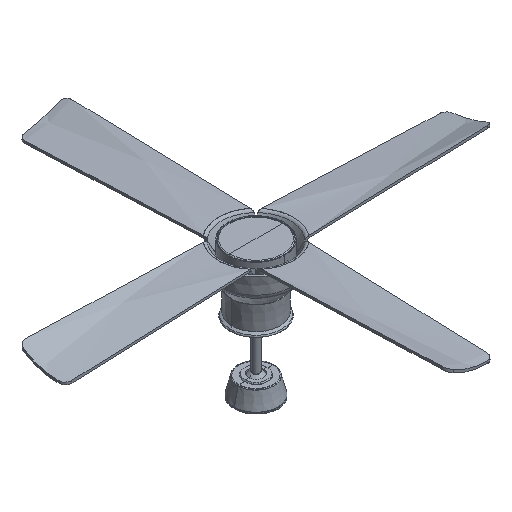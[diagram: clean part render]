
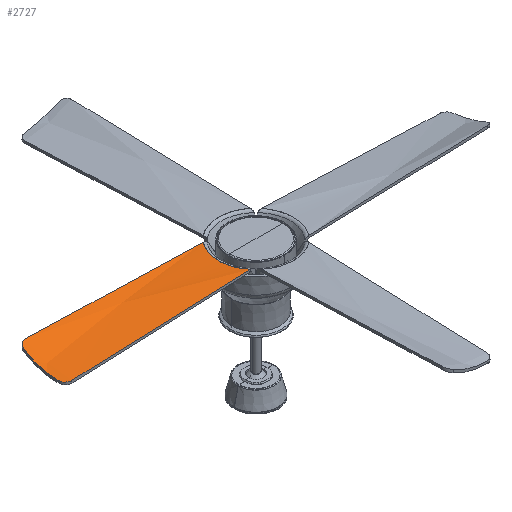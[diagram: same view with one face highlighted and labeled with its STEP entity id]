
A CAD part, isometric view. The second image highlights one B-rep face of the part: STEP entity #2727.
In plain terms, the highlighted free-form (B-spline) face has degree [3, 1] with [5, 2] control points.
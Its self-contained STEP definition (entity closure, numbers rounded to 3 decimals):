
#31=B_SPLINE_SURFACE_WITH_KNOTS('',3,1,((#5164,#5165),(#5166,#5167),(#5168,
#5169),(#5170,#5171),(#5172,#5173)),.UNSPECIFIED.,.F.,.F.,.F.,(4,1,4),(2,
2),(0.,0.533,1.),(0.,1.),.UNSPECIFIED.);
#619=FACE_OUTER_BOUND('',#805,.T.);
#805=EDGE_LOOP('',(#2165,#2166,#2167,#2168,#2169,#2170,#2171));
#998=B_SPLINE_CURVE_WITH_KNOTS('',3,(#4999,#5000,#5001,#5002,#5003,#5004,
#5005,#5006,#5007,#5008),.UNSPECIFIED.,.F.,.F.,(4,2,2,2,4),(0.,
18.649,37.706,55.774,75.41),
 .UNSPECIFIED.);
#999=B_SPLINE_CURVE_WITH_KNOTS('',3,(#5011,#5012,#5013,#5014,#5015,#5016,
#5017,#5018,#5019,#5020),.UNSPECIFIED.,.F.,.F.,(4,2,2,2,4),(0.,19.581,
37.601,56.664,75.204),.UNSPECIFIED.);
#1002=B_SPLINE_CURVE_WITH_KNOTS('',3,(#5041,#5042,#5043,#5044,#5045,#5046),
 .UNSPECIFIED.,.F.,.F.,(4,2,4),(0.,265.035,530.081),
 .UNSPECIFIED.);
#1004=B_SPLINE_CURVE_WITH_KNOTS('',3,(#5057,#5058,#5059,#5060,#5061,#5062,
#5063,#5064,#5065,#5066,#5067,#5068,#5069,#5070),.UNSPECIFIED.,.F.,.F.,
(4,2,2,2,2,2,4),(0.001,1.582,3.515,
8.034,14.875,22.063,29.674),
 .UNSPECIFIED.);
#1006=B_SPLINE_CURVE_WITH_KNOTS('',3,(#5089,#5090,#5091,#5092,#5093,#5094,
#5095,#5096),.UNSPECIFIED.,.F.,.F.,(4,2,2,4),(0.002,53.553,
80.23,106.95),.UNSPECIFIED.);
#1008=B_SPLINE_CURVE_WITH_KNOTS('',3,(#5109,#5110,#5111,#5112,#5113,#5114,
#5115,#5116,#5117,#5118,#5119,#5120,#5121,#5122,#5123,#5124),
 .UNSPECIFIED.,.F.,.F.,(4,2,2,2,2,2,2,4),(0.004,3.896,
8.001,14.854,22.733,26.42,28.161,
29.708),.UNSPECIFIED.);
#1011=B_SPLINE_CURVE_WITH_KNOTS('',3,(#5148,#5149,#5150,#5151,#5152,#5153),
 .UNSPECIFIED.,.F.,.F.,(4,2,4),(0.,268.116,513.433),
 .UNSPECIFIED.);
#1261=VERTEX_POINT('',#4980);
#1263=VERTEX_POINT('',#4993);
#1264=VERTEX_POINT('',#5010);
#1266=VERTEX_POINT('',#5038);
#1268=VERTEX_POINT('',#5054);
#1270=VERTEX_POINT('',#5086);
#1272=VERTEX_POINT('',#5106);
#1566=EDGE_CURVE('',#1261,#1263,#998,.T.);
#1567=EDGE_CURVE('',#1264,#1261,#999,.T.);
#1571=EDGE_CURVE('',#1263,#1266,#1002,.T.);
#1574=EDGE_CURVE('',#1266,#1268,#1004,.T.);
#1577=EDGE_CURVE('',#1268,#1270,#1006,.T.);
#1580=EDGE_CURVE('',#1270,#1272,#1008,.T.);
#1583=EDGE_CURVE('',#1272,#1264,#1011,.T.);
#2165=ORIENTED_EDGE('',*,*,#1580,.T.);
#2166=ORIENTED_EDGE('',*,*,#1583,.T.);
#2167=ORIENTED_EDGE('',*,*,#1567,.T.);
#2168=ORIENTED_EDGE('',*,*,#1566,.T.);
#2169=ORIENTED_EDGE('',*,*,#1571,.T.);
#2170=ORIENTED_EDGE('',*,*,#1574,.T.);
#2171=ORIENTED_EDGE('',*,*,#1577,.T.);
#2727=ADVANCED_FACE('',(#619),#31,.T.);
#4980=CARTESIAN_POINT('',(-110.832,0.,402.04));
#4993=CARTESIAN_POINT('',(-86.19,69.678,402.837));
#4999=CARTESIAN_POINT('Ctrl Pts',(-110.832,0.,
402.04));
#5000=CARTESIAN_POINT('Ctrl Pts',(-110.832,6.216,402.128));
#5001=CARTESIAN_POINT('Ctrl Pts',(-110.31,12.42,402.247));
#5002=CARTESIAN_POINT('Ctrl Pts',(-108.207,24.808,402.503));
#5003=CARTESIAN_POINT('Ctrl Pts',(-106.608,30.966,402.639));
#5004=CARTESIAN_POINT('Ctrl Pts',(-102.483,42.63,402.855));
#5005=CARTESIAN_POINT('Ctrl Pts',(-100.016,48.134,402.935));
#5006=CARTESIAN_POINT('Ctrl Pts',(-93.96,59.146,402.994));
#5007=CARTESIAN_POINT('Ctrl Pts',(-90.305,64.589,402.961));
#5008=CARTESIAN_POINT('Ctrl Pts',(-86.19,69.678,402.837));
#5010=CARTESIAN_POINT('',(-86.318,-69.52,402.873));
#5011=CARTESIAN_POINT('Ctrl Pts',(-86.318,-69.52,402.873));
#5012=CARTESIAN_POINT('Ctrl Pts',(-90.41,-64.439,402.661));
#5013=CARTESIAN_POINT('Ctrl Pts',(-94.046,-59.006,402.468));
#5014=CARTESIAN_POINT('Ctrl Pts',(-100.07,-48.019,402.167));
#5015=CARTESIAN_POINT('Ctrl Pts',(-102.525,-42.527,402.054));
#5016=CARTESIAN_POINT('Ctrl Pts',(-106.636,-30.871,401.903));
#5017=CARTESIAN_POINT('Ctrl Pts',(-108.23,-24.708,401.871));
#5018=CARTESIAN_POINT('Ctrl Pts',(-110.316,-12.348,401.897));
#5019=CARTESIAN_POINT('Ctrl Pts',(-110.832,-6.18,401.953));
#5020=CARTESIAN_POINT('Ctrl Pts',(-110.832,0.,
402.04));
#5038=CARTESIAN_POINT('',(-615.568,68.242,419.468));
#5041=CARTESIAN_POINT('Ctrl Pts',(-86.19,69.678,402.837));
#5042=CARTESIAN_POINT('Ctrl Pts',(-174.459,69.448,406.506));
#5043=CARTESIAN_POINT('Ctrl Pts',(-262.531,69.213,409.726));
#5044=CARTESIAN_POINT('Ctrl Pts',(-439.146,68.734,415.276));
#5045=CARTESIAN_POINT('Ctrl Pts',(-527.235,68.491,417.592));
#5046=CARTESIAN_POINT('Ctrl Pts',(-615.568,68.242,419.468));
#5054=CARTESIAN_POINT('',(-634.173,51.008,410.183));
#5057=CARTESIAN_POINT('Ctrl Pts',(-615.568,68.242,419.468));
#5058=CARTESIAN_POINT('Ctrl Pts',(-616.095,68.24,419.479));
#5059=CARTESIAN_POINT('Ctrl Pts',(-616.621,68.216,419.477));
#5060=CARTESIAN_POINT('Ctrl Pts',(-617.787,68.114,419.442));
#5061=CARTESIAN_POINT('Ctrl Pts',(-618.424,68.024,419.403));
#5062=CARTESIAN_POINT('Ctrl Pts',(-620.527,67.617,419.207));
#5063=CARTESIAN_POINT('Ctrl Pts',(-621.943,67.159,418.965));
#5064=CARTESIAN_POINT('Ctrl Pts',(-625.3,65.62,418.122));
#5065=CARTESIAN_POINT('Ctrl Pts',(-627.094,64.362,417.415));
#5066=CARTESIAN_POINT('Ctrl Pts',(-630.202,61.304,415.705));
#5067=CARTESIAN_POINT('Ctrl Pts',(-631.474,59.493,414.699));
#5068=CARTESIAN_POINT('Ctrl Pts',(-633.385,55.482,412.52));
#5069=CARTESIAN_POINT('Ctrl Pts',(-633.982,53.267,411.343));
#5070=CARTESIAN_POINT('Ctrl Pts',(-634.173,51.008,410.183));
#5086=CARTESIAN_POINT('',(-633.964,-51.51,382.044));
#5089=CARTESIAN_POINT('Ctrl Pts',(-634.173,51.008,410.183));
#5090=CARTESIAN_POINT('Ctrl Pts',(-635.516,35.172,402.055));
#5091=CARTESIAN_POINT('Ctrl Pts',(-636.287,18.5,395.501));
#5092=CARTESIAN_POINT('Ctrl Pts',(-636.301,-7.396,388.378));
#5093=CARTESIAN_POINT('Ctrl Pts',(-636.118,-16.12,386.463));
#5094=CARTESIAN_POINT('Ctrl Pts',(-635.346,-33.741,383.554));
#5095=CARTESIAN_POINT('Ctrl Pts',(-634.759,-42.614,382.565));
#5096=CARTESIAN_POINT('Ctrl Pts',(-633.964,-51.51,382.044));
#5106=CARTESIAN_POINT('',(-614.044,-69.728,382.332));
#5109=CARTESIAN_POINT('Ctrl Pts',(-633.964,-51.51,382.044));
#5110=CARTESIAN_POINT('Ctrl Pts',(-633.849,-52.8,381.969));
#5111=CARTESIAN_POINT('Ctrl Pts',(-633.609,-54.076,381.908));
#5112=CARTESIAN_POINT('Ctrl Pts',(-632.865,-56.634,381.816));
#5113=CARTESIAN_POINT('Ctrl Pts',(-632.349,-57.905,381.786));
#5114=CARTESIAN_POINT('Ctrl Pts',(-630.636,-61.13,381.747));
#5115=CARTESIAN_POINT('Ctrl Pts',(-629.228,-62.949,381.767));
#5116=CARTESIAN_POINT('Ctrl Pts',(-625.605,-66.262,381.869));
#5117=CARTESIAN_POINT('Ctrl Pts',(-623.338,-67.634,381.959));
#5118=CARTESIAN_POINT('Ctrl Pts',(-619.716,-68.948,382.105));
#5119=CARTESIAN_POINT('Ctrl Pts',(-618.525,-69.259,382.154));
#5120=CARTESIAN_POINT('Ctrl Pts',(-616.741,-69.554,382.226));
#5121=CARTESIAN_POINT('Ctrl Pts',(-616.166,-69.624,382.249));
#5122=CARTESIAN_POINT('Ctrl Pts',(-615.074,-69.708,382.292));
#5123=CARTESIAN_POINT('Ctrl Pts',(-614.559,-69.728,382.312));
#5124=CARTESIAN_POINT('Ctrl Pts',(-614.044,-69.728,382.332));
#5148=CARTESIAN_POINT('Ctrl Pts',(-614.044,-69.728,382.332));
#5149=CARTESIAN_POINT('Ctrl Pts',(-524.739,-69.692,385.808));
#5150=CARTESIAN_POINT('Ctrl Pts',(-423.11,-69.652,389.764));
#5151=CARTESIAN_POINT('Ctrl Pts',(-283.453,-69.597,395.201));
#5152=CARTESIAN_POINT('Ctrl Pts',(-173.099,-69.554,399.497));
#5153=CARTESIAN_POINT('Ctrl Pts',(-86.318,-69.52,402.873));
#5164=CARTESIAN_POINT('Ctrl Pts',(-86.19,-69.519,402.878));
#5165=CARTESIAN_POINT('Ctrl Pts',(-636.297,-72.367,381.502));
#5166=CARTESIAN_POINT('Ctrl Pts',(-86.19,-44.725,402.62));
#5167=CARTESIAN_POINT('Ctrl Pts',(-636.297,-44.153,380.973));
#5168=CARTESIAN_POINT('Ctrl Pts',(-86.19,1.769,402.397));
#5169=CARTESIAN_POINT('Ctrl Pts',(-636.297,8.905,388.712));
#5170=CARTESIAN_POINT('Ctrl Pts',(-86.19,48.112,402.637));
#5171=CARTESIAN_POINT('Ctrl Pts',(-636.297,56.912,411.996));
#5172=CARTESIAN_POINT('Ctrl Pts',(-86.19,69.678,402.837));
#5173=CARTESIAN_POINT('Ctrl Pts',(-636.297,77.29,425.784));
